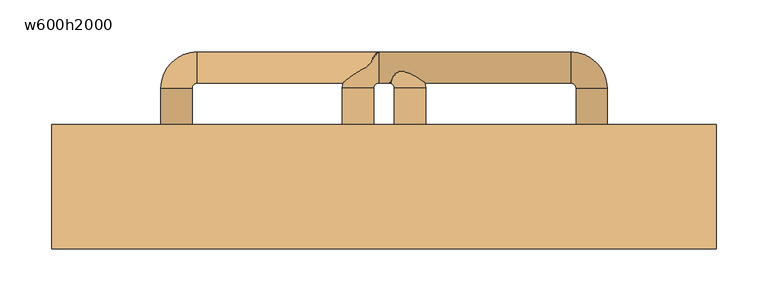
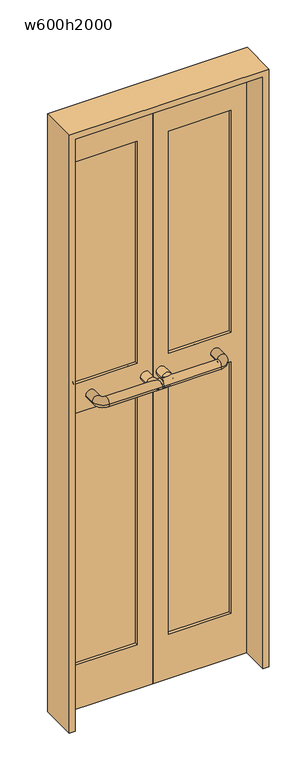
"""IFC4 building model written with IfcOpenShell, lengths in millimetres: door geometry, 浴室折戸 : w600h2000."""

from ifc_helpers import new_model, si_unit, point, frame, origin, place, context, project, spatial, polyline, circle_curve, ellipse_curve, trimmed, outline, extrude, source, transform, mapped, element, save
from ifc_brep_helpers import cylinder_surface, revolved_surface, advanced_brep


def w600h2000_6a266bef(model_context):
    return source(origin(), model_context, "Body", "SolidModel", [
        extrude(outline(polyline([(-50.0, 40.0), (-250.0, 40.0), (-250.0, 42.5), (-50.0, 42.5), (-50.0, 40.0)])), frame((0.0, 0.0, 150.0), z_axis=(0.0, 0.0, 1.0), x_axis=(1.0, 0.0, 0.0)), (0.0, 0.0, 1.0), 1700.0),
        extrude(outline(polyline([(250.0, 40.0), (50.0, 40.0), (50.0, 42.5), (250.0, 42.5), (250.0, 40.0)])), frame((0.0, 0.0, 150.0), z_axis=(0.0, 0.0, 1.0), x_axis=(1.0, 0.0, 0.0)), (0.0, 0.0, 1.0), 1700.0),
        extrude(outline(polyline([(2000.0, 0.0), (2000.0, -300.0), (0.0, -300.0), (0.0, 0.0), (2000.0, 0.0)]), holes=[polyline([(1850.0, -50.0), (1100.0, -50.0), (1100.0, -250.0), (1850.0, -250.0), (1850.0, -50.0)]), polyline([(1000.0, -250.0), (1000.0, -50.0), (150.0, -50.0), (150.0, -250.0), (1000.0, -250.0)])]), frame((0.0, 30.0, 0.0), z_axis=(0.0, 1.0, 0.0), x_axis=(0.0, 0.0, 1.0)), (0.0, 0.0, 1.0), 30.0),
        extrude(outline(polyline([(2020.0, -320.0), (0.0, -320.0), (0.0, -300.0), (2000.0, -300.0), (2000.0, 300.0), (0.0, 300.0), (0.0, 320.0), (2020.0, 320.0), (2020.0, -320.0)])), frame((0.0, -60.0, 0.0), z_axis=(0.0, 1.0, 0.0), x_axis=(0.0, 0.0, 1.0)), (0.0, 0.0, 1.0), 120.0),
        extrude(outline(polyline([(2000.0, 300.0), (2000.0, 0.0), (0.0, 0.0), (0.0, 300.0), (2000.0, 300.0)]), holes=[polyline([(1850.0, 250.0), (1100.0, 250.0), (1100.0, 50.0), (1850.0, 50.0), (1850.0, 250.0)]), polyline([(1000.0, 50.0), (1000.0, 250.0), (150.0, 250.0), (150.0, 50.0), (1000.0, 50.0)])]), frame((0.0, 30.0, 0.0), z_axis=(0.0, 1.0, 0.0), x_axis=(0.0, 0.0, 1.0)), (0.0, 0.0, 1.0), 30.0),
        advanced_brep(
        [(-40.0, -5.0, 1050.0), (-5.0, -40.0, 1050.0), (-5.0, -10.0, 1050.0), (-10.0, -5.0, 1050.0), (-10.0, 95.0, 1050.0), (-40.0, 95.0, 1050.0), (-5.0, 130.0, 1050.0), (-5.0, 100.0, 1050.0), (180.0, 100.0, 1050.0), (180.0, 130.0, 1050.0), (215.0, 95.0, 1050.0), (185.0, 95.0, 1050.0), (185.0, -5.0, 1050.0), (215.0, -5.0, 1050.0), (180.0, -40.0, 1050.0), (180.0, -10.0, 1050.0)],
        [
            (0, 1, circle_curve(frame((-5.0, -5.0, 1050.0), z_axis=(0.0, 0.0, 1.0), x_axis=(0.0, -1.0, 0.0)), 35.0)),
            (1, 2, circle_curve(frame((-5.0, -25.0, 1050.0), z_axis=(-1.0, 0.0, 0.0), x_axis=(0.0, -1.0, 0.0)), 15.0)),
            (2, 3, circle_curve(frame((-5.0, -5.0, 1050.0), z_axis=(0.0, 0.0, -1.0), x_axis=(0.0, -1.0, 0.0)), 5.0)),
            (3, 0, circle_curve(frame((-25.0, -5.0, 1050.0), z_axis=(0.0, -1.0, 0.0), x_axis=(-1.0, 0.0, 0.0)), 15.0)),
            (2, 1, circle_curve(frame((-5.0, -25.0, 1050.0), z_axis=(-1.0, 0.0, 0.0), x_axis=(0.0, -1.0, 0.0)), 15.0)),
            (0, 3, circle_curve(frame((-25.0, -5.0, 1050.0), z_axis=(0.0, -1.0, 0.0), x_axis=(-1.0, 0.0, 0.0)), 15.0)),
            (3, 4),
            (4, 5, circle_curve(frame((-25.0, 95.0, 1050.0), z_axis=(0.0, -1.0, 0.0), x_axis=(-1.0, 0.0, 0.0)), 15.0)),
            (5, 0),
            (5, 4, circle_curve(frame((-25.0, 95.0, 1050.0), z_axis=(0.0, -1.0, 0.0), x_axis=(-1.0, 0.0, 0.0)), 15.0)),
            (6, 5, circle_curve(frame((-5.0, 95.0, 1050.0), z_axis=(0.0, 0.0, 1.0), x_axis=(-1.0, 0.0, 0.0)), 35.0)),
            (4, 7, circle_curve(frame((-5.0, 95.0, 1050.0), z_axis=(0.0, 0.0, -1.0), x_axis=(-1.0, 0.0, 0.0)), 5.0)),
            (7, 6, circle_curve(frame((-5.0, 115.0, 1050.0), z_axis=(-1.0, 0.0, 0.0), x_axis=(0.0, 1.0, 0.0)), 15.0)),
            (6, 7, circle_curve(frame((-5.0, 115.0, 1050.0), z_axis=(-1.0, 0.0, 0.0), x_axis=(0.0, 1.0, 0.0)), 15.0)),
            (7, 8),
            (8, 9, circle_curve(frame((180.0, 115.0, 1050.0), z_axis=(-1.0, 0.0, 0.0), x_axis=(0.0, 1.0, 0.0)), 15.0)),
            (9, 6),
            (9, 8, circle_curve(frame((180.0, 115.0, 1050.0), z_axis=(-1.0, 0.0, 0.0), x_axis=(0.0, 1.0, 0.0)), 15.0)),
            (10, 9, circle_curve(frame((180.0, 95.0, 1050.0), z_axis=(0.0, 0.0, 1.0), x_axis=(0.0, 1.0, 0.0)), 35.0)),
            (8, 11, circle_curve(frame((180.0, 95.0, 1050.0), z_axis=(0.0, 0.0, -1.0), x_axis=(0.0, 1.0, 0.0)), 5.0)),
            (11, 10, circle_curve(frame((200.0, 95.0, 1050.0), z_axis=(0.0, 1.0, 0.0), x_axis=(1.0, 0.0, 0.0)), 15.0)),
            (10, 11, circle_curve(frame((200.0, 95.0, 1050.0), z_axis=(0.0, 1.0, 0.0), x_axis=(1.0, 0.0, 0.0)), 15.0)),
            (11, 12),
            (12, 13, circle_curve(frame((200.0, -5.0, 1050.0), z_axis=(0.0, 1.0, 0.0), x_axis=(1.0, 0.0, 0.0)), 15.0)),
            (13, 10),
            (13, 12, circle_curve(frame((200.0, -5.0, 1050.0), z_axis=(0.0, 1.0, 0.0), x_axis=(1.0, 0.0, 0.0)), 15.0)),
            (14, 13, circle_curve(frame((180.0, -5.0, 1050.0), z_axis=(0.0, 0.0, 1.0), x_axis=(1.0, 0.0, 0.0)), 35.0)),
            (12, 15, circle_curve(frame((180.0, -5.0, 1050.0), z_axis=(0.0, 0.0, -1.0), x_axis=(1.0, 0.0, 0.0)), 5.0)),
            (15, 14, circle_curve(frame((180.0, -25.0, 1050.0), z_axis=(1.0, 0.0, 0.0), x_axis=(0.0, -1.0, 0.0)), 15.0)),
            (14, 15, circle_curve(frame((180.0, -25.0, 1050.0), z_axis=(1.0, 0.0, 0.0), x_axis=(0.0, -1.0, 0.0)), 15.0)),
            (15, 2),
            (1, 14),
        ],
        [
            revolved_surface(trimmed(ellipse_curve(frame((-5.0, -25.0, 1050.0), z_axis=(1.0, 0.0, 0.0), x_axis=(0.0, -1.0, 0.0)), 15.0, 15.0), [point((-5.0, -10.0, 1050.0))], [point((-5.0, -40.0, 1050.0))], True, "CARTESIAN"), (-5.0, -5.0, 0.0), (0.0, 0.0, -1.0)),
            revolved_surface(trimmed(ellipse_curve(frame((-5.0, -25.0, 1050.0), z_axis=(1.0, 0.0, 0.0), x_axis=(0.0, -1.0, 0.0)), 15.0, 15.0), [point((-5.0, -40.0, 1050.0))], [point((-5.0, -10.0, 1050.0))], True, "CARTESIAN"), (-5.0, -5.0, 0.0), (0.0, 0.0, -1.0)),
            cylinder_surface(frame((-25.0, -5.0, 1050.0), z_axis=(0.0, -1.0, 0.0), x_axis=(-1.0, 0.0, 0.0)), 15.0),
            revolved_surface(trimmed(ellipse_curve(frame((-25.0, 95.0, 1050.0), z_axis=(0.0, -1.0, 0.0), x_axis=(-1.0, 0.0, 0.0)), 15.0, 15.0), [point((-10.0, 95.0, 1050.0))], [point((-40.0, 95.0, 1050.0))], True, "CARTESIAN"), (-5.0, 95.0, 0.0), (0.0, 0.0, -1.0)),
            revolved_surface(trimmed(ellipse_curve(frame((-25.0, 95.0, 1050.0), z_axis=(0.0, -1.0, 0.0), x_axis=(-1.0, 0.0, 0.0)), 15.0, 15.0), [point((-40.0, 95.0, 1050.0))], [point((-10.0, 95.0, 1050.0))], True, "CARTESIAN"), (-5.0, 95.0, 0.0), (0.0, 0.0, -1.0)),
            cylinder_surface(frame((-5.0, 115.0, 1050.0), z_axis=(-1.0, 0.0, 0.0), x_axis=(0.0, 1.0, 0.0)), 15.0),
            revolved_surface(trimmed(ellipse_curve(frame((180.0, 115.0, 1050.0), z_axis=(-1.0, 0.0, 0.0), x_axis=(0.0, 1.0, 0.0)), 15.0, 15.0), [point((180.0, 100.0, 1050.0))], [point((180.0, 130.0, 1050.0))], True, "CARTESIAN"), (180.0, 95.0, 0.0), (0.0, 0.0, -1.0)),
            revolved_surface(trimmed(ellipse_curve(frame((180.0, 115.0, 1050.0), z_axis=(-1.0, 0.0, 0.0), x_axis=(0.0, 1.0, 0.0)), 15.0, 15.0), [point((180.0, 130.0, 1050.0))], [point((180.0, 100.0, 1050.0))], True, "CARTESIAN"), (180.0, 95.0, 0.0), (0.0, 0.0, -1.0)),
            cylinder_surface(frame((200.0, 95.0, 1050.0), z_axis=(0.0, 1.0, 0.0), x_axis=(1.0, 0.0, 0.0)), 15.0),
            revolved_surface(trimmed(ellipse_curve(frame((200.0, -5.0, 1050.0), z_axis=(0.0, 1.0, 0.0), x_axis=(1.0, 0.0, 0.0)), 15.0, 15.0), [point((185.0, -5.0, 1050.0))], [point((215.0, -5.0, 1050.0))], True, "CARTESIAN"), (180.0, -5.0, 0.0), (0.0, 0.0, -1.0)),
            revolved_surface(trimmed(ellipse_curve(frame((200.0, -5.0, 1050.0), z_axis=(0.0, 1.0, 0.0), x_axis=(1.0, 0.0, 0.0)), 15.0, 15.0), [point((215.0, -5.0, 1050.0))], [point((185.0, -5.0, 1050.0))], True, "CARTESIAN"), (180.0, -5.0, 0.0), (0.0, 0.0, -1.0)),
            cylinder_surface(frame((180.0, -25.0, 1050.0), z_axis=(1.0, 0.0, 0.0), x_axis=(0.0, -1.0, 0.0)), 15.0),
        ],
        [
            (0, [[1, 2, 3, 4]]),
            (1, [[-3, 5, -1, 6]]),
            (2, [[-4, 7, 8, 9]]),
            (2, [[-6, -9, 10, -7]]),
            (3, [[11, -8, 12, 13]]),
            (4, [[-12, -10, -11, 14]]),
            (5, [[-13, 15, 16, 17]]),
            (5, [[-14, -17, 18, -15]]),
            (6, [[19, -16, 20, 21]]),
            (7, [[-20, -18, -19, 22]]),
            (8, [[-21, 23, 24, 25]]),
            (8, [[-22, -25, 26, -23]]),
            (9, [[27, -24, 28, 29]]),
            (10, [[-28, -26, -27, 30]]),
            (11, [[-29, 31, -2, 32]]),
            (11, [[-30, -32, -5, -31]]),
        ],
    ),
        advanced_brep(
        [(10.0, -5.0, 1050.0), (5.0, -10.0, 1050.0), (5.0, -40.0, 1050.0), (40.0, -5.0, 1050.0), (40.0, 95.0, 1050.0), (10.0, 95.0, 1050.0), (5.0, 100.0, 1050.0), (5.0, 130.0, 1050.0), (-180.0, 130.0, 1050.0), (-180.0, 100.0, 1050.0), (-185.0, 95.0, 1050.0), (-215.0, 95.0, 1050.0), (-215.0, -5.0, 1050.0), (-185.0, -5.0, 1050.0), (-180.0, -10.0, 1050.0), (-180.0, -40.0, 1050.0)],
        [
            (0, 1, circle_curve(frame((5.0, -5.0, 1050.0), z_axis=(0.0, 0.0, -1.0), x_axis=(0.0, -1.0, 0.0)), 5.0)),
            (1, 2, circle_curve(frame((5.0, -25.0, 1050.0), z_axis=(1.0, 0.0, 0.0), x_axis=(0.0, 1.0, 0.0)), 15.0)),
            (2, 3, circle_curve(frame((5.0, -5.0, 1050.0), z_axis=(0.0, 0.0, 1.0), x_axis=(0.0, -1.0, 0.0)), 35.0)),
            (3, 0, circle_curve(frame((25.0, -5.0, 1050.0), z_axis=(0.0, -1.0, 0.0), x_axis=(-1.0, 0.0, 0.0)), 15.0)),
            (2, 1, circle_curve(frame((5.0, -25.0, 1050.0), z_axis=(1.0, 0.0, 0.0), x_axis=(0.0, 1.0, 0.0)), 15.0)),
            (0, 3, circle_curve(frame((25.0, -5.0, 1050.0), z_axis=(0.0, -1.0, 0.0), x_axis=(-1.0, 0.0, 0.0)), 15.0)),
            (3, 4),
            (4, 5, circle_curve(frame((25.0, 95.0, 1050.0), z_axis=(0.0, -1.0, 0.0), x_axis=(-1.0, 0.0, 0.0)), 15.0)),
            (5, 0),
            (5, 4, circle_curve(frame((25.0, 95.0, 1050.0), z_axis=(0.0, -1.0, 0.0), x_axis=(-1.0, 0.0, 0.0)), 15.0)),
            (6, 5, circle_curve(frame((5.0, 95.0, 1050.0), z_axis=(0.0, 0.0, -1.0), x_axis=(1.0, 0.0, 0.0)), 5.0)),
            (4, 7, circle_curve(frame((5.0, 95.0, 1050.0), z_axis=(0.0, 0.0, 1.0), x_axis=(1.0, 0.0, 0.0)), 35.0)),
            (7, 6, circle_curve(frame((5.0, 115.0, 1050.0), z_axis=(1.0, 0.0, 0.0), x_axis=(0.0, -1.0, 0.0)), 15.0)),
            (6, 7, circle_curve(frame((5.0, 115.0, 1050.0), z_axis=(1.0, 0.0, 0.0), x_axis=(0.0, -1.0, 0.0)), 15.0)),
            (7, 8),
            (8, 9, circle_curve(frame((-180.0, 115.0, 1050.0), z_axis=(1.0, 0.0, 0.0), x_axis=(0.0, -1.0, 0.0)), 15.0)),
            (9, 6),
            (9, 8, circle_curve(frame((-180.0, 115.0, 1050.0), z_axis=(1.0, 0.0, 0.0), x_axis=(0.0, -1.0, 0.0)), 15.0)),
            (10, 9, circle_curve(frame((-180.0, 95.0, 1050.0), z_axis=(0.0, 0.0, -1.0), x_axis=(0.0, 1.0, 0.0)), 5.0)),
            (8, 11, circle_curve(frame((-180.0, 95.0, 1050.0), z_axis=(0.0, 0.0, 1.0), x_axis=(0.0, 1.0, 0.0)), 35.0)),
            (11, 10, circle_curve(frame((-200.0, 95.0, 1050.0), z_axis=(0.0, 1.0, 0.0), x_axis=(1.0, 0.0, 0.0)), 15.0)),
            (10, 11, circle_curve(frame((-200.0, 95.0, 1050.0), z_axis=(0.0, 1.0, 0.0), x_axis=(1.0, 0.0, 0.0)), 15.0)),
            (11, 12),
            (12, 13, circle_curve(frame((-200.0, -5.0, 1050.0), z_axis=(0.0, 1.0, 0.0), x_axis=(1.0, 0.0, 0.0)), 15.0)),
            (13, 10),
            (13, 12, circle_curve(frame((-200.0, -5.0, 1050.0), z_axis=(0.0, 1.0, 0.0), x_axis=(1.0, 0.0, 0.0)), 15.0)),
            (14, 13, circle_curve(frame((-180.0, -5.0, 1050.0), z_axis=(0.0, 0.0, -1.0), x_axis=(-1.0, 0.0, 0.0)), 5.0)),
            (12, 15, circle_curve(frame((-180.0, -5.0, 1050.0), z_axis=(0.0, 0.0, 1.0), x_axis=(-1.0, 0.0, 0.0)), 35.0)),
            (15, 14, circle_curve(frame((-180.0, -25.0, 1050.0), z_axis=(-1.0, 0.0, 0.0), x_axis=(0.0, 1.0, 0.0)), 15.0)),
            (14, 15, circle_curve(frame((-180.0, -25.0, 1050.0), z_axis=(-1.0, 0.0, 0.0), x_axis=(0.0, 1.0, 0.0)), 15.0)),
            (15, 2),
            (1, 14),
        ],
        [
            revolved_surface(trimmed(ellipse_curve(frame((5.0, -25.0, 1050.0), z_axis=(-1.0, 0.0, 0.0), x_axis=(0.0, 1.0, 0.0)), 15.0, 15.0), [point((5.0, -40.0, 1050.0))], [point((5.0, -10.0, 1050.0))], True, "CARTESIAN"), (5.0, -5.0, 0.0), (0.0, 0.0, 1.0)),
            revolved_surface(trimmed(ellipse_curve(frame((5.0, -25.0, 1050.0), z_axis=(-1.0, 0.0, 0.0), x_axis=(0.0, 1.0, 0.0)), 15.0, 15.0), [point((5.0, -10.0, 1050.0))], [point((5.0, -40.0, 1050.0))], True, "CARTESIAN"), (5.0, -5.0, 0.0), (0.0, 0.0, 1.0)),
            cylinder_surface(frame((25.0, -5.0, 1050.0), z_axis=(0.0, -1.0, 0.0), x_axis=(-1.0, 0.0, 0.0)), 15.0),
            revolved_surface(trimmed(ellipse_curve(frame((25.0, 95.0, 1050.0), z_axis=(0.0, -1.0, 0.0), x_axis=(-1.0, 0.0, 0.0)), 15.0, 15.0), [point((40.0, 95.0, 1050.0))], [point((10.0, 95.0, 1050.0))], True, "CARTESIAN"), (5.0, 95.0, 0.0), (0.0, 0.0, 1.0)),
            revolved_surface(trimmed(ellipse_curve(frame((25.0, 95.0, 1050.0), z_axis=(0.0, -1.0, 0.0), x_axis=(-1.0, 0.0, 0.0)), 15.0, 15.0), [point((10.0, 95.0, 1050.0))], [point((40.0, 95.0, 1050.0))], True, "CARTESIAN"), (5.0, 95.0, 0.0), (0.0, 0.0, 1.0)),
            cylinder_surface(frame((5.0, 115.0, 1050.0), z_axis=(1.0, 0.0, 0.0), x_axis=(0.0, -1.0, 0.0)), 15.0),
            revolved_surface(trimmed(ellipse_curve(frame((-180.0, 115.0, 1050.0), z_axis=(1.0, 0.0, 0.0), x_axis=(0.0, -1.0, 0.0)), 15.0, 15.0), [point((-180.0, 130.0, 1050.0))], [point((-180.0, 100.0, 1050.0))], True, "CARTESIAN"), (-180.0, 95.0, 0.0), (0.0, 0.0, 1.0)),
            revolved_surface(trimmed(ellipse_curve(frame((-180.0, 115.0, 1050.0), z_axis=(1.0, 0.0, 0.0), x_axis=(0.0, -1.0, 0.0)), 15.0, 15.0), [point((-180.0, 100.0, 1050.0))], [point((-180.0, 130.0, 1050.0))], True, "CARTESIAN"), (-180.0, 95.0, 0.0), (0.0, 0.0, 1.0)),
            cylinder_surface(frame((-200.0, 95.0, 1050.0), z_axis=(0.0, 1.0, 0.0), x_axis=(1.0, 0.0, 0.0)), 15.0),
            revolved_surface(trimmed(ellipse_curve(frame((-200.0, -5.0, 1050.0), z_axis=(0.0, 1.0, 0.0), x_axis=(1.0, 0.0, 0.0)), 15.0, 15.0), [point((-215.0, -5.0, 1050.0))], [point((-185.0, -5.0, 1050.0))], True, "CARTESIAN"), (-180.0, -5.0, 0.0), (0.0, 0.0, 1.0)),
            revolved_surface(trimmed(ellipse_curve(frame((-200.0, -5.0, 1050.0), z_axis=(0.0, 1.0, 0.0), x_axis=(1.0, 0.0, 0.0)), 15.0, 15.0), [point((-185.0, -5.0, 1050.0))], [point((-215.0, -5.0, 1050.0))], True, "CARTESIAN"), (-180.0, -5.0, 0.0), (0.0, 0.0, 1.0)),
            cylinder_surface(frame((-180.0, -25.0, 1050.0), z_axis=(-1.0, 0.0, 0.0), x_axis=(0.0, 1.0, 0.0)), 15.0),
        ],
        [
            (0, [[1, 2, 3, 4]]),
            (1, [[-3, 5, -1, 6]]),
            (2, [[-4, 7, 8, 9]]),
            (2, [[-6, -9, 10, -7]]),
            (3, [[11, -8, 12, 13]]),
            (4, [[-12, -10, -11, 14]]),
            (5, [[-13, 15, 16, 17]]),
            (5, [[-14, -17, 18, -15]]),
            (6, [[19, -16, 20, 21]]),
            (7, [[-20, -18, -19, 22]]),
            (8, [[-21, 23, 24, 25]]),
            (8, [[-22, -25, 26, -23]]),
            (9, [[27, -24, 28, 29]]),
            (10, [[-28, -26, -27, 30]]),
            (11, [[-29, 31, -2, 32]]),
            (11, [[-30, -32, -5, -31]]),
        ],
    ),
    ])


if __name__ == "__main__":
    model = new_model("IFC4")
    model_context = context("Model", 3, world=origin())
    ifc_project = project(units=[si_unit("LENGTHUNIT", "METRE", prefix="MILLI")], contexts=[model_context])
    site = spatial("IfcSite", under=ifc_project)
    building = spatial("IfcBuilding", under=site)
    placement = place(None, origin())
    w600h2000_shape = w600h2000_6a266bef(model_context)
    element("IfcDoor", 1, ObjectType="浴室折戸 : w600h2000", at=placement, inside=building, context=model_context, shape_type="MappedRepresentation", body=[
        mapped(w600h2000_shape, transform((0.0, 0.0, 0.0), x_axis=(1.0, 0.0, 0.0), y_axis=(0.0, 1.0, 0.0), z_axis=(0.0, 0.0, 1.0))),
    ])
    save(model, "model.ifc")
